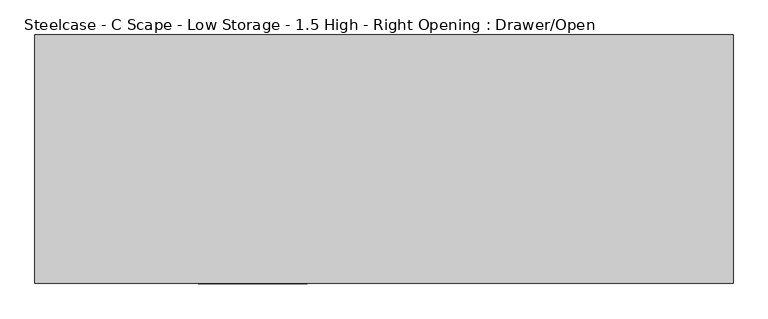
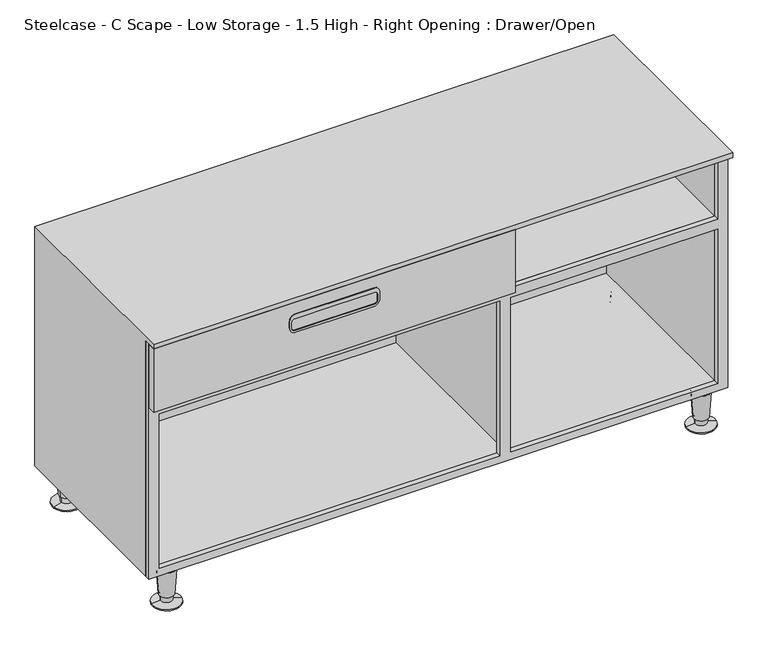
"""IFC4 building model written with IfcOpenShell, lengths in millimetres: furniture geometry, Steelcase - C Scape - Low Storage - 1.5 High - Right Opening : Drawer/Open."""

import ifcopenshell
import ifcopenshell.guid

model = None  # the IFC model being written
_history = None  # IfcOwnerHistory: only IFC2X3 demands one
_inside = {}  # id of a spatial element -> (the spatial element, [elements in it])
_under = {}  # id of a project, library or spatial element -> (it, [spatial elements below it])
_declared = {}  # id of a project -> (the project, [libraries it declares])
_typed = {}  # id of a type object -> (the type object, [elements of that type])
_made_of = {}  # id of a material, layer set ... -> (it, [elements and type objects made of it])


def new_model(schema):
    """Start an empty IFC model of exactly this schema.

    Asked for "IFC4X3", IfcOpenShell would pick the latest addendum, in which some entities
    have other attributes; the version numbers below select the first issue.
    IFC2X3 requires an IfcOwnerHistory on every rooted entity: one is made here for all.
    """
    global model, _history
    if schema == "IFC4X3":
        model = ifcopenshell.file(schema_version=(4, 3, 0, 0))
    else:
        model = ifcopenshell.file(schema=schema)
    _inside.clear()
    _under.clear()
    _declared.clear()
    _typed.clear()
    _made_of.clear()
    _history = None
    if model.schema == "IFC2X3":
        org = make("IfcOrganization", Name="unknown")
        user = make(
            "IfcPersonAndOrganization",
            ThePerson=make("IfcPerson", FamilyName="unknown"),
            TheOrganization=org,
        )
        app = make(
            "IfcApplication",
            ApplicationDeveloper=org,
            Version="unknown",
            ApplicationFullName="unknown",
            ApplicationIdentifier="unknown",
        )
        _history = make(
            "IfcOwnerHistory",
            OwningUser=user,
            OwningApplication=app,
            ChangeAction="ADDED",
            CreationDate=0,
        )
    return model


def make(cls, **values):
    """One entity of the class cls with the attributes given. An attribute that is None is left unset."""
    return model.create_entity(
        cls, **{name: value for name, value in values.items() if value is not None}
    )


def rooted(cls, **values):
    """An entity with a GlobalId (a new one), such as an element, a storey or a relation."""
    return make(cls, GlobalId=ifcopenshell.guid.new(), OwnerHistory=_history, **values)


def si_unit(unit_type, name, prefix=None):
    """IfcSIUnit, for example si_unit("LENGTHUNIT", "METRE", prefix="MILLI")."""
    return make("IfcSIUnit", UnitType=unit_type, Prefix=prefix, Name=name)


def assignment(units):
    """IfcUnitAssignment: the units of a project."""
    return None if units is None else make("IfcUnitAssignment", Units=units)


def point(xyz):
    """IfcCartesianPoint."""
    return None if xyz is None else make("IfcCartesianPoint", Coordinates=xyz)


def direction(xyz):
    """IfcDirection."""
    return None if xyz is None else make("IfcDirection", DirectionRatios=xyz)


def frame(location, z_axis=None, x_axis=None):
    """IfcAxis2Placement3D, a coordinate frame: its origin and axes. An axis left out is left unset."""
    return make(
        "IfcAxis2Placement3D",
        Location=point(location),
        Axis=direction(z_axis),
        RefDirection=direction(x_axis),
    )


def frame_2d(location, x_axis=None):
    """IfcAxis2Placement2D, a coordinate frame in the plane: its origin and x axis."""
    return make(
        "IfcAxis2Placement2D", Location=point(location), RefDirection=direction(x_axis)
    )


def origin():
    """The frame at (0, 0, 0) with its axes left unset."""
    return frame((0.0, 0.0, 0.0))


def place(relative_to, where):
    """IfcLocalPlacement: puts the frame where relative to a parent placement (None: the world)."""
    return make(
        "IfcLocalPlacement", PlacementRelTo=relative_to, RelativePlacement=where
    )


def context(
    kind, dimensions, precision=None, world=None, true_north=None, identifier=None
):
    """IfcGeometricRepresentationContext, for example the 3D "Model" context."""
    return make(
        "IfcGeometricRepresentationContext",
        ContextIdentifier=identifier,
        ContextType=kind,
        CoordinateSpaceDimension=dimensions,
        Precision=precision,
        WorldCoordinateSystem=world,
        TrueNorth=true_north,
    )


def project(units=None, contexts=None):
    """IfcProject with its units and contexts."""
    return rooted(
        "IfcProject",
        Name="project",
        RepresentationContexts=contexts,
        UnitsInContext=assignment(units),
    )


def spatial(cls, under=None, at=None, **own):
    """A site, building, storey or space (cls), placed at a placement, below another one or the project."""
    s = rooted(cls, ObjectPlacement=at, **own)
    if under is not None:
        _under.setdefault(under.id(), (under, []))[1].append(s)
    return s


def polyline(points):
    """IfcPolyline through the points."""
    return make("IfcPolyline", Points=[point(p) for p in points])


def circle_curve(where, radius):
    """IfcCircle in the frame where."""
    return make("IfcCircle", Position=where, Radius=radius)


def trimmed(basis, trim1, trim2, sense, master):
    """IfcTrimmedCurve: the piece of a basis curve between two trims."""
    return make(
        "IfcTrimmedCurve",
        BasisCurve=basis,
        Trim1=trim1,
        Trim2=trim2,
        SenseAgreement=sense,
        MasterRepresentation=master,
    )


def segment(curve, same_sense, transition):
    """IfcCompositeCurveSegment."""
    return make(
        "IfcCompositeCurveSegment",
        Transition=transition,
        SameSense=same_sense,
        ParentCurve=curve,
    )


def composite_curve(segments, self_intersect=None):
    """IfcCompositeCurve: segments joined end to end."""
    return make("IfcCompositeCurve", Segments=segments, SelfIntersect=self_intersect)


def outline(outer, holes=None, kind="AREA"):
    """IfcArbitraryClosedProfileDef: a profile drawn as a closed curve; with holes, ...WithVoids."""
    if holes is None:
        return make("IfcArbitraryClosedProfileDef", ProfileType=kind, OuterCurve=outer)
    return make(
        "IfcArbitraryProfileDefWithVoids",
        ProfileType=kind,
        OuterCurve=outer,
        InnerCurves=holes,
    )


def extrude(swept, where, along, depth):
    """IfcExtrudedAreaSolid: the profile swept, set in the frame where, extruded along a direction by depth."""
    return make(
        "IfcExtrudedAreaSolid",
        SweptArea=swept,
        Position=where,
        ExtrudedDirection=direction(along),
        Depth=depth,
    )


def faces_of(points, faces, orient=None, outer=None):
    """IfcFace entities. A face is a list of loops; a loop is a list of indices into points, from 0.

    orient and outer hold one flag for each loop. By default every Orientation is true, the
    first loop of a face is its IfcFaceOuterBound and the others are IfcFaceBound.
    """
    made = []
    for i, loops in enumerate(faces):
        bounds = []
        for j, loop in enumerate(loops):
            is_outer = j == 0 if outer is None else outer[i][j]
            bounds.append(
                make(
                    "IfcFaceOuterBound" if is_outer else "IfcFaceBound",
                    Bound=make("IfcPolyLoop", Polygon=[points[k] for k in loop]),
                    Orientation=True if orient is None else orient[i][j],
                )
            )
        made.append(make("IfcFace", Bounds=bounds))
    return made


def faceted_brep(points, faces, orient=None, outer=None, voids=None):
    """IfcFacetedBrep: a solid bounded by flat faces; with voids (closed shells), ...WithVoids."""
    shared = [point(p) for p in points]
    hull = make("IfcClosedShell", CfsFaces=faces_of(shared, faces, orient, outer))
    if voids is None:
        return make("IfcFacetedBrep", Outer=hull)
    return make(
        "IfcFacetedBrepWithVoids",
        Outer=hull,
        Voids=[
            make(cls, CfsFaces=faces_of(shared, fs, o, b)) for cls, fs, o, b in voids
        ],
    )


def shape(context_of_items, identifier, shape_type, items):
    """IfcShapeRepresentation: the items that make up one representation, for example the "Body"."""
    return make(
        "IfcShapeRepresentation",
        ContextOfItems=context_of_items,
        RepresentationIdentifier=identifier,
        RepresentationType=shape_type,
        Items=items,
    )


def source(mapping_origin, context_of_items, identifier, shape_type, items):
    """IfcRepresentationMap: a shape defined once, which mapped items show again and again."""
    return make(
        "IfcRepresentationMap",
        MappingOrigin=mapping_origin,
        MappedRepresentation=shape(context_of_items, identifier, shape_type, items),
    )


def transform(
    local_origin,
    x_axis=None,
    y_axis=None,
    z_axis=None,
    scale=None,
    scale2=None,
    scale3=None,
    uniform=True,
):
    """IfcCartesianTransformationOperator3D, or its non-uniform kind. x_axis, y_axis, z_axis: its Axis1, 2, 3."""
    if uniform:
        return make(
            "IfcCartesianTransformationOperator3D",
            Axis1=direction(x_axis),
            Axis2=direction(y_axis),
            LocalOrigin=point(local_origin),
            Scale=scale,
            Axis3=direction(z_axis),
        )
    return make(
        "IfcCartesianTransformationOperator3DnonUniform",
        Axis1=direction(x_axis),
        Axis2=direction(y_axis),
        LocalOrigin=point(local_origin),
        Scale=scale,
        Axis3=direction(z_axis),
        Scale2=scale2,
        Scale3=scale3,
    )


def mapped(mapping_source, mapping_target):
    """IfcMappedItem: shows the shape of a source again, moved by a transform."""
    return make(
        "IfcMappedItem", MappingSource=mapping_source, MappingTarget=mapping_target
    )


def made_of(thing, what):
    """Note that an element or type object is made of a material, layer set ...; save() writes the relation."""
    if what is not None:
        _made_of.setdefault(what.id(), (what, []))[1].append(thing)
    return thing


def element(
    cls,
    number,
    at=None,
    inside=None,
    cuts=None,
    type_object=None,
    material=None,
    context=None,
    identifier="Body",
    shape_type=None,
    held_by="IfcProductDefinitionShape",
    body=None,
    shapes=None,
    **own,
):
    """One element of the class cls, such as IfcWall. Its Tag is "e" and its number.

    at: its placement. inside: the storey or other place that contains it. cuts: it is an
    opening in that element (IfcRelVoidsElement). A single representation is given by context,
    identifier, shape_type and body (its items); several are given by shapes. held_by: the class
    of the entity that holds the representations. save() writes the other relations.
    """
    e = rooted(cls, Tag="e%d" % number, ObjectPlacement=at, **own)
    if body is not None:
        shapes = [shape(context, identifier, shape_type, body)]
    if shapes is not None:
        e.Representation = make(held_by, Representations=shapes)
    if inside is not None:
        _inside.setdefault(inside.id(), (inside, []))[1].append(e)
    if cuts is not None:
        rooted(
            "IfcRelVoidsElement", RelatingBuildingElement=cuts, RelatedOpeningElement=e
        )
    if type_object is not None:
        _typed.setdefault(type_object.id(), (type_object, []))[1].append(e)
    return made_of(e, material)


def aggregate(whole, parts):
    """IfcRelAggregates: a whole, such as a stair, and the parts it consists of."""
    return rooted("IfcRelAggregates", RelatingObject=whole, RelatedObjects=parts)


def save(model, path):
    """Write the relations noted so far, then the file.

    IfcRelAggregates (storeys below a building ...), IfcRelContainedInSpatialStructure (elements
    in a storey), IfcRelDefinesByType, IfcRelAssociatesMaterial and IfcRelDeclares: one each for
    every whole, place, type object, material and project.
    """
    for whole, parts in _under.values():
        aggregate(whole, parts)
    for where, things in _inside.values():
        rooted(
            "IfcRelContainedInSpatialStructure",
            RelatedElements=things,
            RelatingStructure=where,
        )
    for kind, things in _typed.values():
        rooted("IfcRelDefinesByType", RelatedObjects=things, RelatingType=kind)
    for what, things in _made_of.values():
        rooted("IfcRelAssociatesMaterial", RelatedObjects=things, RelatingMaterial=what)
    for by, libraries in _declared.values():
        rooted("IfcRelDeclares", RelatingContext=by, RelatedDefinitions=libraries)
    model.write(path)


def plane_surface(at):
    """IfcPlane: the flat surface through the origin of the frame at, square to its z axis."""
    return make("IfcPlane", Position=at)


def cylinder_surface(at, radius):
    """IfcCylindricalSurface: all points at the distance radius from the z axis of the frame at."""
    return make("IfcCylindricalSurface", Position=at, Radius=radius)


def revolved_surface(curve, axis_point, axis_direction):
    """IfcSurfaceOfRevolution: the curve turned about the line through axis_point along axis_direction."""
    return make(
        "IfcSurfaceOfRevolution",
        SweptCurve=make("IfcArbitraryOpenProfileDef", ProfileType="CURVE", Curve=curve),
        AxisPosition=make("IfcAxis1Placement", Location=point(axis_point), Axis=direction(axis_direction)),
    )


def advanced_brep(points, edges, surfaces, faces):
    """IfcAdvancedBrep: a solid bounded by faces that lie on surfaces and meet in shared edges.

    An edge is (start, end): straight between two places in points (the first is 0);
    or (start, end, curve); or (start, end, curve, False) where it runs against its curve.
    A face is (place in surfaces, loops), or (place, loops, False) where it looks against
    its surface's normal. A loop lists edges by number (the first is 1), with a minus sign
    where the edge is run from its end to its start. The first loop is the outer one.
    """
    corners = [point(p) for p in points]
    vertices = [make("IfcVertexPoint", VertexGeometry=c) for c in corners]
    made = []
    for start, end, *more in edges:
        made.append(
            make(
                "IfcEdgeCurve",
                EdgeStart=vertices[start],
                EdgeEnd=vertices[end],
                EdgeGeometry=more[0] if more else make("IfcPolyline", Points=[corners[start], corners[end]]),
                SameSense=more[1] if len(more) > 1 else True,
            )
        )
    hull = []
    for where, loops, *sense in faces:
        bounds = []
        for j, loop in enumerate(loops):
            ring = [make("IfcOrientedEdge", EdgeElement=made[abs(k) - 1], Orientation=k > 0) for k in loop]
            bounds.append(
                make(
                    "IfcFaceOuterBound" if j == 0 else "IfcFaceBound",
                    Bound=make("IfcEdgeLoop", EdgeList=ring),
                    Orientation=True,
                )
            )
        hull.append(make("IfcAdvancedFace", Bounds=bounds, FaceSurface=surfaces[where], SameSense=sense[0] if sense else True))
    return make("IfcAdvancedBrep", Outer=make("IfcClosedShell", CfsFaces=hull))


def steelcase_c_scape_low_storage_1_5_high_right_opening_drawer_eb6d1810(model_context):
    return source(origin(), model_context, "Body", "SolidModel", [
        advanced_brep(
        [(1200.2097985, -403.1210225, 0.0), (1141.9877015, -394.2130493, 0.0), (1171.09875, -398.6670359, 0.0), (1200.2097985, -403.1210225, 2.5119506), (1141.9877015, -394.2130493, 2.5119506), (1182.860915, -400.4666456, 5.7545598), (1159.336585, -396.8674262, 5.7545598), (1183.5496845, -400.5720272, 19.05), (1158.6478155, -396.7620445, 19.05), (1185.9792714, -400.9437537, 19.05), (1156.2182286, -396.3903181, 19.05), (1189.9296195, -401.5481565, 76.2), (1152.2678805, -395.7859153, 76.2), (1171.09875, -398.6670359, 76.2)],
        [
            (0, 1, circle_curve(frame((1171.09875, -398.6670359, 0.0), z_axis=(0.0, 0.0, -1.0), x_axis=(0.0, 1.0, 0.0)), 29.4498071)),
            (1, 2),
            (2, 0),
            (1, 0, circle_curve(frame((1171.09875, -398.6670359, 0.0), z_axis=(0.0, 0.0, -1.0), x_axis=(0.0, 1.0, 0.0)), 29.4498071)),
            (3, 4, circle_curve(frame((1171.09875, -398.6670359, 2.5119506), z_axis=(0.0, 0.0, -1.0), x_axis=(0.0, 1.0, 0.0)), 29.4498071)),
            (4, 1),
            (0, 3),
            (4, 3, circle_curve(frame((1171.09875, -398.6670359, 2.5119506), z_axis=(0.0, 0.0, -1.0), x_axis=(0.0, 1.0, 0.0)), 29.4498071)),
            (5, 6, circle_curve(frame((1171.09875, -398.6670359, 5.7545598), z_axis=(0.0, 0.0, -1.0), x_axis=(0.0, 1.0, 0.0)), 11.8990387)),
            (6, 4),
            (3, 5),
            (6, 5, circle_curve(frame((1171.09875, -398.6670359, 5.7545598), z_axis=(0.0, 0.0, -1.0), x_axis=(0.0, 1.0, 0.0)), 11.8990387)),
            (7, 8, circle_curve(frame((1171.09875, -398.6670359, 19.05), z_axis=(0.0, 0.0, -1.0), x_axis=(0.0, 1.0, 0.0)), 12.5958232)),
            (8, 6),
            (5, 7),
            (8, 7, circle_curve(frame((1171.09875, -398.6670359, 19.05), z_axis=(0.0, 0.0, -1.0), x_axis=(0.0, 1.0, 0.0)), 12.5958232)),
            (9, 10, circle_curve(frame((1171.09875, -398.6670359, 19.05), z_axis=(0.0, 0.0, -1.0), x_axis=(0.0, 1.0, 0.0)), 15.0536827)),
            (10, 8),
            (7, 9),
            (10, 9, circle_curve(frame((1171.09875, -398.6670359, 19.05), z_axis=(0.0, 0.0, -1.0), x_axis=(0.0, 1.0, 0.0)), 15.0536827)),
            (11, 12, circle_curve(frame((1171.09875, -398.6670359, 76.2), z_axis=(0.0, 0.0, -1.0), x_axis=(0.0, 1.0, 0.0)), 19.05)),
            (12, 10),
            (9, 11),
            (12, 11, circle_curve(frame((1171.09875, -398.6670359, 76.2), z_axis=(0.0, 0.0, -1.0), x_axis=(0.0, 1.0, 0.0)), 19.05)),
            (13, 12),
            (11, 13),
        ],
        [
            plane_surface(frame((1171.09875, -398.6670359, 0.0), z_axis=(0.0, 0.0, -1.0), x_axis=(0.0, 1.0, 0.0))),
            cylinder_surface(frame((1171.09875, -398.6670359, 25.4), z_axis=(0.0, 0.0, 1.0), x_axis=(0.0, 1.0, 0.0)), 29.4498071),
            revolved_surface(polyline([(1171.09875, -369.2172288, 2.5119506), (1171.09875, -386.7679972, 5.7545598)]), (1171.09875, -398.6670359, 25.4), (0.0, 0.0, 1.0)),
            revolved_surface(polyline([(1171.09875, -386.7679972, 5.7545598), (1171.09875, -386.0712127, 19.05)]), (1171.09875, -398.6670359, 25.4), (0.0, 0.0, 1.0)),
            plane_surface(frame((1171.09875, -398.6670359, 19.05), z_axis=(0.0, 0.0, -1.0), x_axis=(0.0, 1.0, 0.0))),
            revolved_surface(polyline([(1171.09875, -383.6133532, 19.05), (1171.09875, -379.6170359, 76.2)]), (1171.09875, -398.6670359, 25.4), (0.0, 0.0, 1.0)),
            plane_surface(frame((1171.09875, -398.6670359, 76.2), z_axis=(0.0, 0.0, 1.0), x_axis=(0.0, 1.0, 0.0))),
        ],
        [
            (0, [[1, 2, 3]]),
            (0, [[4, -3, -2]]),
            (1, [[5, 6, -1, 7]]),
            (1, [[8, -7, -4, -6]]),
            (2, [[9, 10, -5, 11]]),
            (2, [[12, -11, -8, -10]]),
            (3, [[13, 14, -9, 15]]),
            (3, [[16, -15, -12, -14]]),
            (4, [[17, 18, -13, 19]]),
            (4, [[20, -19, -16, -18]]),
            (5, [[21, 22, -17, 23]]),
            (5, [[24, -23, -20, -22]]),
            (6, [[25, -21, 26]]),
            (6, [[-26, -24, -25]]),
        ],
    ),
        advanced_brep(
        [(75.8224611, -403.1210225, 0.0), (17.6003641, -394.2130493, 0.0), (46.7114126, -398.6670359, 0.0), (75.8224611, -403.1210225, 2.5119506), (17.6003641, -394.2130493, 2.5119506), (58.4735776, -400.4666456, 5.7545598), (34.9492476, -396.8674262, 5.7545598), (59.1623471, -400.5720272, 19.05), (34.2604781, -396.7620445, 19.05), (61.5919341, -400.9437537, 19.05), (31.8308912, -396.3903181, 19.05), (65.5422821, -401.5481565, 76.2), (27.8805432, -395.7859153, 76.2), (46.7114126, -398.6670359, 76.2)],
        [
            (0, 1, circle_curve(frame((46.7114126, -398.6670359, 0.0), z_axis=(0.0, 0.0, -1.0), x_axis=(0.0, 1.0, 0.0)), 29.4498071)),
            (1, 2),
            (2, 0),
            (1, 0, circle_curve(frame((46.7114126, -398.6670359, 0.0), z_axis=(0.0, 0.0, -1.0), x_axis=(0.0, 1.0, 0.0)), 29.4498071)),
            (3, 4, circle_curve(frame((46.7114126, -398.6670359, 2.5119506), z_axis=(0.0, 0.0, -1.0), x_axis=(0.0, 1.0, 0.0)), 29.4498071)),
            (4, 1),
            (0, 3),
            (4, 3, circle_curve(frame((46.7114126, -398.6670359, 2.5119506), z_axis=(0.0, 0.0, -1.0), x_axis=(0.0, 1.0, 0.0)), 29.4498071)),
            (5, 6, circle_curve(frame((46.7114126, -398.6670359, 5.7545598), z_axis=(0.0, 0.0, -1.0), x_axis=(0.0, 1.0, 0.0)), 11.8990387)),
            (6, 4),
            (3, 5),
            (6, 5, circle_curve(frame((46.7114126, -398.6670359, 5.7545598), z_axis=(0.0, 0.0, -1.0), x_axis=(0.0, 1.0, 0.0)), 11.8990387)),
            (7, 8, circle_curve(frame((46.7114126, -398.6670359, 19.05), z_axis=(0.0, 0.0, -1.0), x_axis=(0.0, 1.0, 0.0)), 12.5958232)),
            (8, 6),
            (5, 7),
            (8, 7, circle_curve(frame((46.7114126, -398.6670359, 19.05), z_axis=(0.0, 0.0, -1.0), x_axis=(0.0, 1.0, 0.0)), 12.5958232)),
            (9, 10, circle_curve(frame((46.7114126, -398.6670359, 19.05), z_axis=(0.0, 0.0, -1.0), x_axis=(0.0, 1.0, 0.0)), 15.0536827)),
            (10, 8),
            (7, 9),
            (10, 9, circle_curve(frame((46.7114126, -398.6670359, 19.05), z_axis=(0.0, 0.0, -1.0), x_axis=(0.0, 1.0, 0.0)), 15.0536827)),
            (11, 12, circle_curve(frame((46.7114126, -398.6670359, 76.2), z_axis=(0.0, 0.0, -1.0), x_axis=(0.0, 1.0, 0.0)), 19.05)),
            (12, 10),
            (9, 11),
            (12, 11, circle_curve(frame((46.7114126, -398.6670359, 76.2), z_axis=(0.0, 0.0, -1.0), x_axis=(0.0, 1.0, 0.0)), 19.05)),
            (13, 12),
            (11, 13),
        ],
        [
            plane_surface(frame((46.7114126, -398.6670359, 0.0), z_axis=(0.0, 0.0, -1.0), x_axis=(0.0, 1.0, 0.0))),
            cylinder_surface(frame((46.7114126, -398.6670359, 25.4), z_axis=(0.0, 0.0, 1.0), x_axis=(0.0, 1.0, 0.0)), 29.4498071),
            revolved_surface(polyline([(46.7114126, -369.2172288, 2.5119506), (46.7114126, -386.7679972, 5.7545598)]), (46.7114126, -398.6670359, 25.4), (0.0, 0.0, 1.0)),
            revolved_surface(polyline([(46.7114126, -386.7679972, 5.7545598), (46.7114126, -386.0712127, 19.05)]), (46.7114126, -398.6670359, 25.4), (0.0, 0.0, 1.0)),
            plane_surface(frame((46.7114126, -398.6670359, 19.05), z_axis=(0.0, 0.0, -1.0), x_axis=(0.0, 1.0, 0.0))),
            revolved_surface(polyline([(46.7114126, -383.6133532, 19.05), (46.7114126, -379.6170359, 76.2)]), (46.7114126, -398.6670359, 25.4), (0.0, 0.0, 1.0)),
            plane_surface(frame((46.7114126, -398.6670359, 76.2), z_axis=(0.0, 0.0, 1.0), x_axis=(0.0, 1.0, 0.0))),
        ],
        [
            (0, [[1, 2, 3]]),
            (0, [[4, -3, -2]]),
            (1, [[5, 6, -1, 7]]),
            (1, [[8, -7, -4, -6]]),
            (2, [[9, 10, -5, 11]]),
            (2, [[12, -11, -8, -10]]),
            (3, [[13, 14, -9, 15]]),
            (3, [[16, -15, -12, -14]]),
            (4, [[17, 18, -13, 19]]),
            (4, [[20, -19, -16, -18]]),
            (5, [[21, 22, -17, 23]]),
            (5, [[24, -23, -20, -22]]),
            (6, [[25, -21, 26]]),
            (6, [[-26, -24, -25]]),
        ],
    ),
        extrude(outline(polyline([(599.44, 1217.93), (599.44, 0.0), (76.2, 0.0), (76.2, 1217.93), (599.44, 1217.93)]), holes=[polyline([(436.9435121, 21.3256814), (436.9435121, 738.5047189), (92.7100024, 738.5047189), (92.7100024, 21.3256814), (436.9435121, 21.3256814)]), polyline([(92.7100024, 1196.5961479), (92.7100024, 761.365), (436.9435121, 761.365), (436.9435121, 1196.5961479), (92.7100024, 1196.5961479)]), polyline([(585.724, 1196.5961479), (458.7875121, 1196.5961479), (458.7875121, 761.365), (585.724, 761.365), (585.724, 1196.5961479)]), polyline([(585.724, 21.3382324), (585.724, 738.5047189), (458.7875121, 738.5047189), (458.7875121, 21.3382324), (585.724, 21.3382324)])]), frame((0.0, -415.2912402, 0.0), z_axis=(0.0, 1.0, 0.0), x_axis=(0.0, 0.0, 1.0)), (0.0, 0.0, 1.0), 10.9228992),
        extrude(outline(composite_curve([segment(trimmed(circle_curve(frame_2d((560.7050073, 297.8147442)), 12.7), [point((573.4050073, 297.8147442))], [point((560.7050073, 285.1147442))], False, "CARTESIAN"), True, "CONTINUOUS"), segment(polyline([(560.7050073, 285.1147442), (546.1000363, 285.1147442)]), True, "CONTINUOUS"), segment(trimmed(circle_curve(frame_2d((546.1000363, 297.8147442)), 12.7), [point((546.1000363, 285.1147442))], [point((533.4000363, 297.8147442))], False, "CARTESIAN"), True, "CONTINUOUS"), segment(polyline([(533.4000363, 297.8147442), (533.4000363, 380.0475), (533.4000363, 462.2802558)]), True, "CONTINUOUS"), segment(trimmed(circle_curve(frame_2d((546.1000363, 462.2802558)), 12.7), [point((533.4000363, 462.2802558))], [point((546.1000363, 474.9802558))], False, "CARTESIAN"), True, "CONTINUOUS"), segment(polyline([(546.1000363, 474.9802558), (560.7050073, 474.9802558)]), True, "CONTINUOUS"), segment(trimmed(circle_curve(frame_2d((560.7050073, 462.2802558)), 12.7), [point((560.7050073, 474.9802558))], [point((573.4050073, 462.2802558))], False, "CARTESIAN"), True, "CONTINUOUS"), segment(polyline([(573.4050073, 462.2802558), (573.4050073, 380.0475), (573.4050073, 297.8147442)]), True, "CONTINUOUS")], self_intersect=False), holes=[composite_curve([segment(trimmed(circle_curve(frame_2d((557.2760257, 296.2923565)), 6.35), [point((557.2760257, 289.9423565))], [point((563.6260257, 296.2923565))], True, "CARTESIAN"), True, "CONTINUOUS"), segment(polyline([(563.6260257, 296.2923565), (563.6260257, 380.0475), (563.6260257, 463.8026435)]), True, "CONTINUOUS"), segment(trimmed(circle_curve(frame_2d((557.2760257, 463.8026435)), 6.35), [point((563.6260257, 463.8026435))], [point((557.2760257, 470.1526435))], True, "CARTESIAN"), True, "CONTINUOUS"), segment(polyline([(557.2760257, 470.1526435), (544.5760136, 470.1526435)]), True, "CONTINUOUS"), segment(trimmed(circle_curve(frame_2d((544.5760136, 463.8026435)), 6.35), [point((544.5760136, 470.1526435))], [point((538.2260136, 463.8026435))], True, "CARTESIAN"), True, "CONTINUOUS"), segment(polyline([(538.2260136, 463.8026435), (538.2260136, 380.0475), (538.2260136, 296.2923565)]), True, "CONTINUOUS"), segment(trimmed(circle_curve(frame_2d((544.5760136, 296.2923565)), 6.35), [point((538.2260136, 296.2923565))], [point((544.5760136, 289.9423565))], True, "CARTESIAN"), True, "CONTINUOUS"), segment(polyline([(544.5760136, 289.9423565), (557.2760257, 289.9423565)]), True, "CONTINUOUS")], self_intersect=False)]), frame((0.0, -434.34, 0.0), z_axis=(0.0, 1.0, 0.0), x_axis=(0.0, 0.0, 1.0)), (0.0, 0.0, 1.0), 6.35),
        advanced_brep(
        [(1189.9296195, -31.5218435, 76.2), (1152.2678805, -37.2840847, 76.2), (1171.09875, -34.4029641, 76.2), (1185.9792714, -32.1262463, 19.05), (1156.2182286, -36.6796819, 19.05), (1183.5496845, -32.4979728, 19.05), (1158.6478155, -36.3079555, 19.05), (1182.860915, -32.6033544, 5.7545598), (1159.336585, -36.2025738, 5.7545598), (1200.2097985, -29.9489775, 2.5119506), (1141.9877015, -38.8569507, 2.5119506), (1200.2097985, -29.9489775, 0.0), (1141.9877015, -38.8569507, 0.0), (1171.09875, -34.4029641, 0.0)],
        [
            (0, 1, circle_curve(frame((1171.09875, -34.4029641, 76.2), z_axis=(0.0, 0.0, 1.0), x_axis=(0.0, -1.0, 0.0)), 19.05)),
            (1, 2),
            (2, 0),
            (1, 0, circle_curve(frame((1171.09875, -34.4029641, 76.2), z_axis=(0.0, 0.0, 1.0), x_axis=(0.0, -1.0, 0.0)), 19.05)),
            (3, 4, circle_curve(frame((1171.09875, -34.4029641, 19.05), z_axis=(0.0, 0.0, 1.0), x_axis=(0.0, -1.0, 0.0)), 15.0536827)),
            (4, 1),
            (0, 3),
            (4, 3, circle_curve(frame((1171.09875, -34.4029641, 19.05), z_axis=(0.0, 0.0, 1.0), x_axis=(0.0, -1.0, 0.0)), 15.0536827)),
            (5, 6, circle_curve(frame((1171.09875, -34.4029641, 19.05), z_axis=(0.0, 0.0, 1.0), x_axis=(0.0, -1.0, 0.0)), 12.5958232)),
            (6, 4),
            (3, 5),
            (6, 5, circle_curve(frame((1171.09875, -34.4029641, 19.05), z_axis=(0.0, 0.0, 1.0), x_axis=(0.0, -1.0, 0.0)), 12.5958232)),
            (7, 8, circle_curve(frame((1171.09875, -34.4029641, 5.7545598), z_axis=(0.0, 0.0, 1.0), x_axis=(0.0, -1.0, 0.0)), 11.8990387)),
            (8, 6),
            (5, 7),
            (8, 7, circle_curve(frame((1171.09875, -34.4029641, 5.7545598), z_axis=(0.0, 0.0, 1.0), x_axis=(0.0, -1.0, 0.0)), 11.8990387)),
            (9, 10, circle_curve(frame((1171.09875, -34.4029641, 2.5119506), z_axis=(0.0, 0.0, 1.0), x_axis=(0.0, -1.0, 0.0)), 29.4498071)),
            (10, 8),
            (7, 9),
            (10, 9, circle_curve(frame((1171.09875, -34.4029641, 2.5119506), z_axis=(0.0, 0.0, 1.0), x_axis=(0.0, -1.0, 0.0)), 29.4498071)),
            (11, 12, circle_curve(frame((1171.09875, -34.4029641, 0.0), z_axis=(0.0, 0.0, 1.0), x_axis=(0.0, -1.0, 0.0)), 29.4498071)),
            (12, 10),
            (9, 11),
            (12, 11, circle_curve(frame((1171.09875, -34.4029641, 0.0), z_axis=(0.0, 0.0, 1.0), x_axis=(0.0, -1.0, 0.0)), 29.4498071)),
            (13, 12),
            (11, 13),
        ],
        [
            plane_surface(frame((1171.09875, -34.4029641, 76.2), z_axis=(0.0, 0.0, 1.0), x_axis=(0.0, -1.0, 0.0))),
            revolved_surface(polyline([(1171.09875, -53.4529641, 76.2), (1171.09875, -49.4566468, 19.05)]), (1171.09875, -34.4029641, 25.4), (0.0, 0.0, -1.0)),
            plane_surface(frame((1171.09875, -34.4029641, 19.05), z_axis=(0.0, 0.0, -1.0), x_axis=(0.0, -1.0, 0.0))),
            revolved_surface(polyline([(1171.09875, -46.9987873, 19.05), (1171.09875, -46.3020028, 5.7545598)]), (1171.09875, -34.4029641, 25.4), (0.0, 0.0, -1.0)),
            revolved_surface(polyline([(1171.09875, -46.3020028, 5.7545598), (1171.09875, -63.8527712, 2.5119506)]), (1171.09875, -34.4029641, 25.4), (0.0, 0.0, -1.0)),
            cylinder_surface(frame((1171.09875, -34.4029641, 25.4), z_axis=(0.0, 0.0, -1.0), x_axis=(0.0, -1.0, 0.0)), 29.4498071),
            plane_surface(frame((1171.09875, -34.4029641, 0.0), z_axis=(0.0, 0.0, -1.0), x_axis=(0.0, -1.0, 0.0))),
        ],
        [
            (0, [[1, 2, 3]]),
            (0, [[4, -3, -2]]),
            (1, [[5, 6, -1, 7]]),
            (1, [[8, -7, -4, -6]]),
            (2, [[9, 10, -5, 11]]),
            (2, [[12, -11, -8, -10]]),
            (3, [[13, 14, -9, 15]]),
            (3, [[16, -15, -12, -14]]),
            (4, [[17, 18, -13, 19]]),
            (4, [[20, -19, -16, -18]]),
            (5, [[21, 22, -17, 23]]),
            (5, [[24, -23, -20, -22]]),
            (6, [[25, -21, 26]]),
            (6, [[-26, -24, -25]]),
        ],
    ),
        advanced_brep(
        [(65.5422821, -31.5218435, 76.2), (27.8805432, -37.2840847, 76.2), (46.7114126, -34.4029641, 76.2), (61.5919341, -32.1262463, 19.05), (31.8308912, -36.6796819, 19.05), (59.1623471, -32.4979728, 19.05), (34.2604781, -36.3079555, 19.05), (58.4735776, -32.6033544, 5.7545598), (34.9492476, -36.2025738, 5.7545598), (75.8224611, -29.9489775, 2.5119506), (17.6003641, -38.8569507, 2.5119506), (75.8224611, -29.9489775, 0.0), (17.6003641, -38.8569507, 0.0), (46.7114126, -34.4029641, 0.0)],
        [
            (0, 1, circle_curve(frame((46.7114126, -34.4029641, 76.2), z_axis=(0.0, 0.0, 1.0), x_axis=(0.0, -1.0, 0.0)), 19.05)),
            (1, 2),
            (2, 0),
            (1, 0, circle_curve(frame((46.7114126, -34.4029641, 76.2), z_axis=(0.0, 0.0, 1.0), x_axis=(0.0, -1.0, 0.0)), 19.05)),
            (3, 4, circle_curve(frame((46.7114126, -34.4029641, 19.05), z_axis=(0.0, 0.0, 1.0), x_axis=(0.0, -1.0, 0.0)), 15.0536827)),
            (4, 1),
            (0, 3),
            (4, 3, circle_curve(frame((46.7114126, -34.4029641, 19.05), z_axis=(0.0, 0.0, 1.0), x_axis=(0.0, -1.0, 0.0)), 15.0536827)),
            (5, 6, circle_curve(frame((46.7114126, -34.4029641, 19.05), z_axis=(0.0, 0.0, 1.0), x_axis=(0.0, -1.0, 0.0)), 12.5958232)),
            (6, 4),
            (3, 5),
            (6, 5, circle_curve(frame((46.7114126, -34.4029641, 19.05), z_axis=(0.0, 0.0, 1.0), x_axis=(0.0, -1.0, 0.0)), 12.5958232)),
            (7, 8, circle_curve(frame((46.7114126, -34.4029641, 5.7545598), z_axis=(0.0, 0.0, 1.0), x_axis=(0.0, -1.0, 0.0)), 11.8990387)),
            (8, 6),
            (5, 7),
            (8, 7, circle_curve(frame((46.7114126, -34.4029641, 5.7545598), z_axis=(0.0, 0.0, 1.0), x_axis=(0.0, -1.0, 0.0)), 11.8990387)),
            (9, 10, circle_curve(frame((46.7114126, -34.4029641, 2.5119506), z_axis=(0.0, 0.0, 1.0), x_axis=(0.0, -1.0, 0.0)), 29.4498071)),
            (10, 8),
            (7, 9),
            (10, 9, circle_curve(frame((46.7114126, -34.4029641, 2.5119506), z_axis=(0.0, 0.0, 1.0), x_axis=(0.0, -1.0, 0.0)), 29.4498071)),
            (11, 12, circle_curve(frame((46.7114126, -34.4029641, 0.0), z_axis=(0.0, 0.0, 1.0), x_axis=(0.0, -1.0, 0.0)), 29.4498071)),
            (12, 10),
            (9, 11),
            (12, 11, circle_curve(frame((46.7114126, -34.4029641, 0.0), z_axis=(0.0, 0.0, 1.0), x_axis=(0.0, -1.0, 0.0)), 29.4498071)),
            (13, 12),
            (11, 13),
        ],
        [
            plane_surface(frame((46.7114126, -34.4029641, 76.2), z_axis=(0.0, 0.0, 1.0), x_axis=(0.0, -1.0, 0.0))),
            revolved_surface(polyline([(46.7114126, -53.4529641, 76.2), (46.7114126, -49.4566468, 19.05)]), (46.7114126, -34.4029641, 25.4), (0.0, 0.0, -1.0)),
            plane_surface(frame((46.7114126, -34.4029641, 19.05), z_axis=(0.0, 0.0, -1.0), x_axis=(0.0, -1.0, 0.0))),
            revolved_surface(polyline([(46.7114126, -46.9987873, 19.05), (46.7114126, -46.3020028, 5.7545598)]), (46.7114126, -34.4029641, 25.4), (0.0, 0.0, -1.0)),
            revolved_surface(polyline([(46.7114126, -46.3020028, 5.7545598), (46.7114126, -63.8527712, 2.5119506)]), (46.7114126, -34.4029641, 25.4), (0.0, 0.0, -1.0)),
            cylinder_surface(frame((46.7114126, -34.4029641, 25.4), z_axis=(0.0, 0.0, -1.0), x_axis=(0.0, -1.0, 0.0)), 29.4498071),
            plane_surface(frame((46.7114126, -34.4029641, 0.0), z_axis=(0.0, 0.0, -1.0), x_axis=(0.0, -1.0, 0.0))),
        ],
        [
            (0, [[1, 2, 3]]),
            (0, [[4, -3, -2]]),
            (1, [[5, 6, -1, 7]]),
            (1, [[8, -7, -4, -6]]),
            (2, [[9, 10, -5, 11]]),
            (2, [[12, -11, -8, -10]]),
            (3, [[13, 14, -9, 15]]),
            (3, [[16, -15, -12, -14]]),
            (4, [[17, 18, -13, 19]]),
            (4, [[20, -19, -16, -18]]),
            (5, [[21, 22, -17, 23]]),
            (5, [[24, -23, -20, -22]]),
            (6, [[25, -21, 26]]),
            (6, [[-26, -24, -25]]),
        ],
    ),
        extrude(outline(polyline([(760.73, -415.2912402), (760.73, -433.07), (0.0, -433.07), (0.0, -415.2912402), (760.73, -415.2912402)])), frame((0.0, 0.0, 458.7875121), z_axis=(0.0, 0.0, 1.0), x_axis=(1.0, 0.0, 0.0)), (0.0, 0.0, 1.0), 140.6524879),
        faceted_brep([(0.0, 0.0, 609.6), (1217.93, 0.0, 609.6), (1217.93, 0.0, 76.2), (0.0, 0.0, 76.2), (0.0, -433.07, 609.6), (0.0, -404.3683411, 76.2), (0.0, -404.3683411, 599.44), (0.0, -433.07, 599.44), (21.3382324, -404.3683411, 599.44), (1217.93, -404.3683411, 76.2), (1217.93, -404.3683411, 599.44), (1196.5961479, -404.3683411, 599.44), (1196.5961479, -404.3683411, 458.7875121), (760.73, -404.3683411, 458.7875121), (760.73, -404.3683411, 599.44), (754.3812797, -404.3683411, 599.44), (754.3812797, -404.3683411, 458.7875121), (21.3382324, -404.3683411, 458.7875121), (1196.5961479, -404.3683411, 450.8499879), (1196.5961479, -404.3683411, 92.7100024), (760.73, -404.3683411, 92.7100024), (760.73, -404.3683411, 450.8499879), (754.3812797, -404.3683411, 450.8499879), (754.3812797, -404.3683411, 92.7100024), (21.3382324, -404.3683411, 92.7100024), (21.3382324, -404.3683411, 450.8499879), (21.3382324, -9.525, 599.44), (21.3382324, -9.525, 458.7875121), (21.3382324, -9.525, 92.7100024), (21.3382324, -9.525, 450.8499879), (754.3812797, -9.525, 599.44), (754.3812797, -9.525, 458.7875121), (754.3812797, -9.525, 92.7100024), (754.3812797, -9.525, 450.8499879), (760.73, -9.525, 599.44), (760.73, -9.525, 458.7875121), (760.73, -9.525, 92.7100024), (760.73, -9.525, 450.8499879), (1196.5961479, -9.525, 599.44), (1196.5961479, -9.525, 458.7875121), (1196.5961479, -9.525, 92.7100024), (1196.5961479, -9.525, 450.8499879), (1217.93, -433.07, 609.6), (1217.93, -433.07, 599.44)], [[[0, 1, 2, 3]], [[4, 0, 3, 5, 6, 7]], [[8, 6, 5, 9, 10, 11, 12, 13, 14, 15, 16, 17], [18, 19, 20, 21], [22, 23, 24, 25]], [[26, 8, 17, 27]], [[25, 24, 28, 29]], [[30, 26, 27, 31]], [[29, 28, 32, 33]], [[15, 30, 31, 16]], [[33, 32, 23, 22]], [[34, 14, 13, 35]], [[21, 20, 36, 37]], [[38, 34, 35, 39]], [[37, 36, 40, 41]], [[11, 38, 39, 12]], [[41, 40, 19, 18]], [[2, 1, 42, 43, 10, 9]], [[1, 0, 4, 42]], [[43, 7, 6, 8, 26, 30, 15, 14, 34, 38, 11, 10]], [[42, 4, 7, 43]], [[13, 12, 39, 35]], [[17, 16, 31, 27]], [[18, 21, 37, 41]], [[22, 25, 29, 33]], [[20, 19, 40, 36]], [[24, 23, 32, 28]], [[2, 9, 5, 3]]]),
    ])


if __name__ == "__main__":
    model = new_model("IFC4")
    model_context = context("Model", 3, world=origin())
    ifc_project = project(units=[si_unit("LENGTHUNIT", "METRE", prefix="MILLI")], contexts=[model_context])
    site = spatial("IfcSite", under=ifc_project)
    building = spatial("IfcBuilding", under=site)
    placement = place(None, origin())
    steelcase_c_scape_low_storage_1_5_high_right_opening_drawer_shape = steelcase_c_scape_low_storage_1_5_high_right_opening_drawer_eb6d1810(model_context)
    element("IfcFurniture", 1, ObjectType="Steelcase - C Scape - Low Storage - 1.5 High - Right Opening : Drawer/Open", at=placement, inside=building, context=model_context, shape_type="MappedRepresentation", body=[
        mapped(steelcase_c_scape_low_storage_1_5_high_right_opening_drawer_shape, transform((0.0, 0.0, 0.0), x_axis=(1.0, 0.0, 0.0), y_axis=(0.0, 1.0, 0.0), z_axis=(0.0, 0.0, 1.0))),
    ])
    save(model, "model.ifc")
